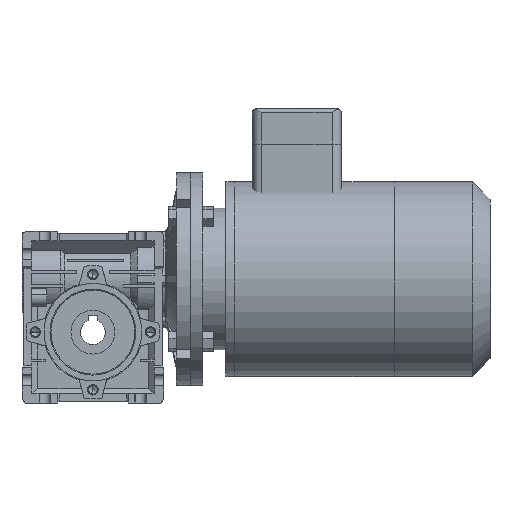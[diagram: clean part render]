
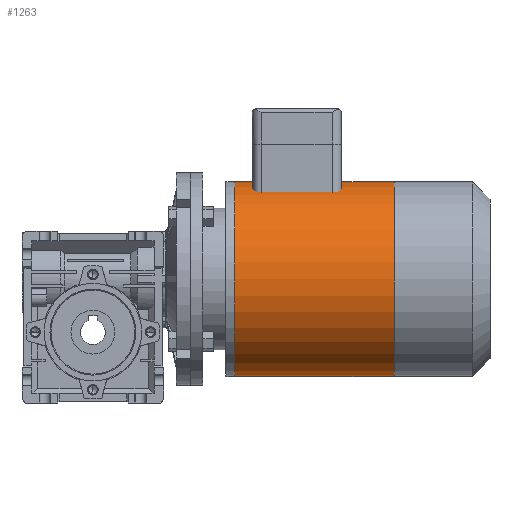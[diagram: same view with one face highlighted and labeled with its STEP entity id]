
A CAD part, top view. The second image highlights one B-rep face of the part: STEP entity #1263.
In plain terms, the highlighted cylindrical face has radius 55 mm (diameter 110 mm), a partial arc.
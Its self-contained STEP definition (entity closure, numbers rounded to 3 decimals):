
#1263 = ADVANCED_FACE( '', ( #3175 ), #3176, .T. );
#3175 = FACE_OUTER_BOUND( '', #5176, .T. );
#3176 = CYLINDRICAL_SURFACE( '', #5177, 55. );
#5176 = EDGE_LOOP( '', ( #12756, #12757, #12758, #12759 ) );
#5177 = AXIS2_PLACEMENT_3D( '', #12760, #12761, #12762 );
#12756 = ORIENTED_EDGE( '', *, *, #15737, .F. );
#12757 = ORIENTED_EDGE( '', *, *, #15738, .T. );
#12758 = ORIENTED_EDGE( '', *, *, #15739, .F. );
#12759 = ORIENTED_EDGE( '', *, *, #15740, .F. );
#12760 = CARTESIAN_POINT( '', ( 124.95, 30., 0. ) );
#12761 = DIRECTION( '', ( -1., 0., 0. ) );
#12762 = DIRECTION( '', ( 0., 1., 0. ) );
#15737 = EDGE_CURVE( '', #19838, #19839, #19840, .T. );
#15738 = EDGE_CURVE( '', #19838, #19841, #19842, .T. );
#15739 = EDGE_CURVE( '', #19843, #19841, #19844, .T. );
#15740 = EDGE_CURVE( '', #19839, #19843, #19845, .T. );
#19838 = VERTEX_POINT( '', #26718 );
#19839 = VERTEX_POINT( '', #26719 );
#19840 = LINE( '', #26720, #26721 );
#19841 = VERTEX_POINT( '', #26722 );
#19842 = CIRCLE( '', #26723, 55. );
#19843 = VERTEX_POINT( '', #26724 );
#19844 = LINE( '', #26725, #26726 );
#19845 = CIRCLE( '', #26727, 55. );
#26718 = CARTESIAN_POINT( '', ( 80., 85., 0. ) );
#26719 = CARTESIAN_POINT( '', ( 169.9, 85., 0. ) );
#26720 = CARTESIAN_POINT( '', ( 124.95, 85., 0. ) );
#26721 = VECTOR( '', #30818, 1. );
#26722 = CARTESIAN_POINT( '', ( 80., -25., 0. ) );
#26723 = AXIS2_PLACEMENT_3D( '', #30819, #30820, #30821 );
#26724 = CARTESIAN_POINT( '', ( 169.9, -25., 0. ) );
#26725 = CARTESIAN_POINT( '', ( 124.95, -25., 0. ) );
#26726 = VECTOR( '', #30822, 1. );
#26727 = AXIS2_PLACEMENT_3D( '', #30823, #30824, #30825 );
#30818 = DIRECTION( '', ( 1., 0., 0. ) );
#30819 = CARTESIAN_POINT( '', ( 80., 30., 0. ) );
#30820 = DIRECTION( '', ( 1., 0., 0. ) );
#30821 = DIRECTION( '', ( 0., 1., 0. ) );
#30822 = DIRECTION( '', ( -1., 0., 0. ) );
#30823 = CARTESIAN_POINT( '', ( 169.9, 30., 0. ) );
#30824 = DIRECTION( '', ( 1., 0., 0. ) );
#30825 = DIRECTION( '', ( 0., 1., 0. ) );
